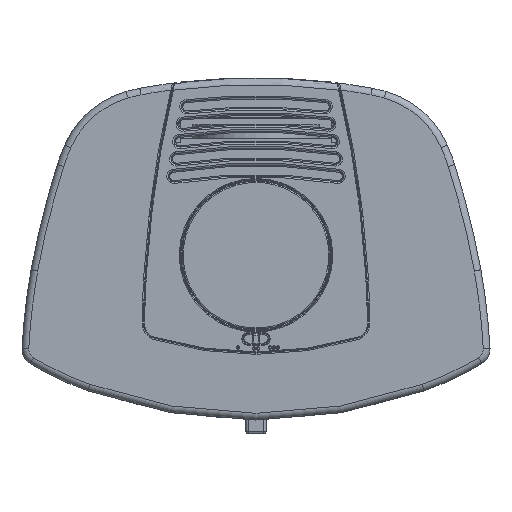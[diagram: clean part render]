
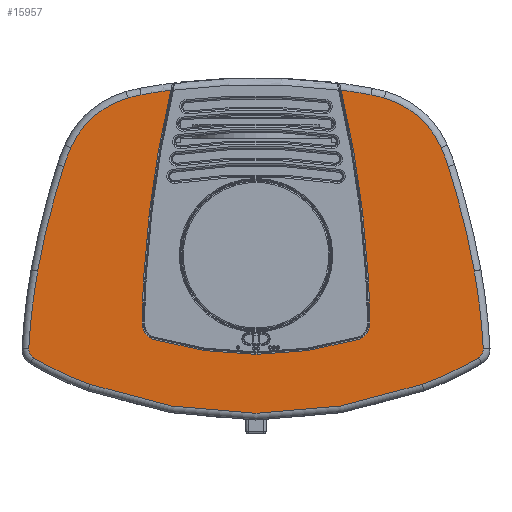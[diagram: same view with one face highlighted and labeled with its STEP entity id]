
A CAD part, top view. The second image highlights one B-rep face of the part: STEP entity #15957.
In plain terms, the highlighted planar face has unit normal (0, 0, 1).
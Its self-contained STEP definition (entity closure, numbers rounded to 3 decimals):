
#1618=CIRCLE('',#18541,745.);
#1621=CIRCLE('',#18546,175.);
#1630=CIRCLE('',#18558,975.);
#1657=CIRCLE('',#18599,1303.);
#1661=CIRCLE('',#18604,975.);
#1664=CIRCLE('',#18608,745.);
#1666=CIRCLE('',#18612,235.);
#1671=CIRCLE('',#18618,12.);
#1672=CIRCLE('',#18620,105.);
#1676=CIRCLE('',#18625,385.);
#1679=CIRCLE('',#18629,585.);
#1682=CIRCLE('',#18633,385.);
#1684=CIRCLE('',#18636,175.);
#1688=CIRCLE('',#18641,12.);
#1689=CIRCLE('',#18643,105.);
#1693=CIRCLE('',#18648,745.);
#1694=CIRCLE('',#18650,235.);
#1696=CIRCLE('',#18661,745.);
#1697=CIRCLE('',#18662,1303.);
#1698=CIRCLE('',#18663,1103.);
#1699=CIRCLE('',#18664,19.);
#1700=CIRCLE('',#18665,428.);
#1701=CIRCLE('',#18666,19.);
#1702=CIRCLE('',#18667,1103.);
#8108=ORIENTED_EDGE('',*,*,#10825,.F.);
#8109=ORIENTED_EDGE('',*,*,#10767,.T.);
#8110=ORIENTED_EDGE('',*,*,#10773,.T.);
#8111=ORIENTED_EDGE('',*,*,#10842,.T.);
#8112=ORIENTED_EDGE('',*,*,#10836,.T.);
#8113=ORIENTED_EDGE('',*,*,#10830,.T.);
#8114=ORIENTED_EDGE('',*,*,#10833,.T.);
#8115=ORIENTED_EDGE('',*,*,#10841,.T.);
#8116=ORIENTED_EDGE('',*,*,#10846,.T.);
#8117=ORIENTED_EDGE('',*,*,#10849,.T.);
#8118=ORIENTED_EDGE('',*,*,#10852,.T.);
#8119=ORIENTED_EDGE('',*,*,#10858,.T.);
#8120=ORIENTED_EDGE('',*,*,#10863,.T.);
#8121=ORIENTED_EDGE('',*,*,#10785,.T.);
#8122=ORIENTED_EDGE('',*,*,#10864,.T.);
#8123=ORIENTED_EDGE('',*,*,#10859,.T.);
#8124=ORIENTED_EDGE('',*,*,#10854,.T.);
#8125=ORIENTED_EDGE('',*,*,#10874,.T.);
#8126=ORIENTED_EDGE('',*,*,#10875,.F.);
#8127=ORIENTED_EDGE('',*,*,#10876,.F.);
#8128=ORIENTED_EDGE('',*,*,#10877,.F.);
#8129=ORIENTED_EDGE('',*,*,#10878,.F.);
#8130=ORIENTED_EDGE('',*,*,#10879,.F.);
#8131=ORIENTED_EDGE('',*,*,#10880,.F.);
#10767=EDGE_CURVE('',#12392,#12391,#1618,.T.);
#10773=EDGE_CURVE('',#12391,#12396,#1621,.T.);
#10785=EDGE_CURVE('',#12403,#12406,#1630,.T.);
#10825=EDGE_CURVE('',#12392,#12431,#1657,.T.);
#10830=EDGE_CURVE('',#12433,#12435,#1661,.T.);
#10833=EDGE_CURVE('',#12435,#12437,#1664,.T.);
#10836=EDGE_CURVE('',#12439,#12433,#1666,.T.);
#10841=EDGE_CURVE('',#12437,#12442,#1671,.T.);
#10842=EDGE_CURVE('',#12396,#12439,#1672,.T.);
#10846=EDGE_CURVE('',#12442,#12444,#1676,.T.);
#10849=EDGE_CURVE('',#12444,#12446,#1679,.T.);
#10852=EDGE_CURVE('',#12446,#12448,#1682,.T.);
#10854=EDGE_CURVE('',#12450,#12449,#1684,.T.);
#10858=EDGE_CURVE('',#12448,#12452,#1688,.T.);
#10859=EDGE_CURVE('',#12453,#12450,#1689,.T.);
#10863=EDGE_CURVE('',#12452,#12403,#1693,.T.);
#10864=EDGE_CURVE('',#12406,#12453,#1694,.T.);
#10874=EDGE_CURVE('',#12449,#12455,#1696,.T.);
#10875=EDGE_CURVE('',#12456,#12455,#1697,.T.);
#10876=EDGE_CURVE('',#12457,#12456,#1698,.T.);
#10877=EDGE_CURVE('',#12458,#12457,#1699,.T.);
#10878=EDGE_CURVE('',#12459,#12458,#1700,.T.);
#10879=EDGE_CURVE('',#12460,#12459,#1701,.T.);
#10880=EDGE_CURVE('',#12431,#12460,#1702,.T.);
#12391=VERTEX_POINT('',#40052);
#12392=VERTEX_POINT('',#40054);
#12396=VERTEX_POINT('',#40069);
#12403=VERTEX_POINT('',#40089);
#12406=VERTEX_POINT('',#40094);
#12431=VERTEX_POINT('',#40174);
#12433=VERTEX_POINT('',#40179);
#12435=VERTEX_POINT('',#40183);
#12437=VERTEX_POINT('',#40189);
#12439=VERTEX_POINT('',#40197);
#12442=VERTEX_POINT('',#40205);
#12444=VERTEX_POINT('',#40214);
#12446=VERTEX_POINT('',#40220);
#12448=VERTEX_POINT('',#40226);
#12449=VERTEX_POINT('',#40230);
#12450=VERTEX_POINT('',#40232);
#12452=VERTEX_POINT('',#40238);
#12453=VERTEX_POINT('',#40242);
#12455=VERTEX_POINT('',#40270);
#12456=VERTEX_POINT('',#40272);
#12457=VERTEX_POINT('',#40274);
#12458=VERTEX_POINT('',#40276);
#12459=VERTEX_POINT('',#40278);
#12460=VERTEX_POINT('',#40280);
#13548=EDGE_LOOP('',(#8108,#8109,#8110,#8111,#8112,#8113,#8114,#8115,#8116,
#8117,#8118,#8119,#8120,#8121,#8122,#8123,#8124,#8125,#8126,#8127,#8128,
#8129,#8130,#8131));
#14634=FACE_BOUND('',#13548,.T.);
#15104=PLANE('',#18660);
#15957=ADVANCED_FACE('',(#14634),#15104,.T.);
#18541=AXIS2_PLACEMENT_3D('',#40053,#22008,#22009);
#18546=AXIS2_PLACEMENT_3D('',#40070,#22020,#22021);
#18558=AXIS2_PLACEMENT_3D('',#40095,#22047,#22048);
#18599=AXIS2_PLACEMENT_3D('',#40173,#22142,#22143);
#18604=AXIS2_PLACEMENT_3D('',#40184,#22153,#22154);
#18608=AXIS2_PLACEMENT_3D('',#40190,#22161,#22162);
#18612=AXIS2_PLACEMENT_3D('',#40196,#22170,#22171);
#18618=AXIS2_PLACEMENT_3D('',#40206,#22182,#22183);
#18620=AXIS2_PLACEMENT_3D('',#40208,#22186,#22187);
#18625=AXIS2_PLACEMENT_3D('',#40215,#22196,#22197);
#18629=AXIS2_PLACEMENT_3D('',#40221,#22204,#22205);
#18633=AXIS2_PLACEMENT_3D('',#40227,#22212,#22213);
#18636=AXIS2_PLACEMENT_3D('',#40231,#22218,#22219);
#18641=AXIS2_PLACEMENT_3D('',#40239,#22228,#22229);
#18643=AXIS2_PLACEMENT_3D('',#40241,#22232,#22233);
#18648=AXIS2_PLACEMENT_3D('',#40248,#22242,#22243);
#18650=AXIS2_PLACEMENT_3D('',#40250,#22246,#22247);
#18660=AXIS2_PLACEMENT_3D('',#40268,#22274,#22275);
#18661=AXIS2_PLACEMENT_3D('',#40269,#22276,#22277);
#18662=AXIS2_PLACEMENT_3D('',#40271,#22278,#22279);
#18663=AXIS2_PLACEMENT_3D('',#40273,#22280,#22281);
#18664=AXIS2_PLACEMENT_3D('',#40275,#22282,#22283);
#18665=AXIS2_PLACEMENT_3D('',#40277,#22284,#22285);
#18666=AXIS2_PLACEMENT_3D('',#40279,#22286,#22287);
#18667=AXIS2_PLACEMENT_3D('',#40281,#22288,#22289);
#22008=DIRECTION('',(0.,0.,1.));
#22009=DIRECTION('',(1.,0.,0.));
#22020=DIRECTION('',(0.,0.,1.));
#22021=DIRECTION('',(1.,0.,0.));
#22047=DIRECTION('',(0.,0.,1.));
#22048=DIRECTION('',(1.,0.,0.));
#22142=DIRECTION('',(0.,0.,1.));
#22143=DIRECTION('',(1.,0.,0.));
#22153=DIRECTION('',(0.,0.,1.));
#22154=DIRECTION('',(1.,0.,0.));
#22161=DIRECTION('',(0.,0.,1.));
#22162=DIRECTION('',(1.,0.,0.));
#22170=DIRECTION('',(0.,0.,1.));
#22171=DIRECTION('',(1.,0.,0.));
#22182=DIRECTION('',(0.,0.,1.));
#22183=DIRECTION('',(1.,0.,0.));
#22186=DIRECTION('',(0.,0.,1.));
#22187=DIRECTION('',(1.,0.,0.));
#22196=DIRECTION('',(0.,0.,1.));
#22197=DIRECTION('',(1.,0.,0.));
#22204=DIRECTION('',(0.,0.,1.));
#22205=DIRECTION('',(1.,0.,0.));
#22212=DIRECTION('',(0.,0.,1.));
#22213=DIRECTION('',(1.,0.,0.));
#22218=DIRECTION('',(0.,0.,1.));
#22219=DIRECTION('',(1.,0.,0.));
#22228=DIRECTION('',(0.,0.,1.));
#22229=DIRECTION('',(1.,0.,0.));
#22232=DIRECTION('',(0.,0.,1.));
#22233=DIRECTION('',(1.,0.,0.));
#22242=DIRECTION('',(0.,0.,1.));
#22243=DIRECTION('',(1.,0.,0.));
#22246=DIRECTION('',(0.,0.,1.));
#22247=DIRECTION('',(1.,0.,0.));
#22274=DIRECTION('',(0.,0.,1.));
#22275=DIRECTION('',(1.,0.,0.));
#22276=DIRECTION('',(0.,0.,1.));
#22277=DIRECTION('',(1.,0.,0.));
#22278=DIRECTION('',(0.,0.,1.));
#22279=DIRECTION('',(1.,0.,0.));
#22280=DIRECTION('',(0.,0.,1.));
#22281=DIRECTION('',(1.,0.,0.));
#22282=DIRECTION('',(0.,0.,1.));
#22283=DIRECTION('',(-1.,0.,0.));
#22284=DIRECTION('',(0.,0.,1.));
#22285=DIRECTION('',(1.,0.,0.));
#22286=DIRECTION('',(0.,0.,1.));
#22287=DIRECTION('',(1.,0.,0.));
#22288=DIRECTION('',(0.,0.,1.));
#22289=DIRECTION('',(1.,0.,0.));
#40052=CARTESIAN_POINT('',(-136.726,201.624,40.));
#40053=CARTESIAN_POINT('',(0.,-530.722,40.));
#40054=CARTESIAN_POINT('',(-101.227,207.369,40.));
#40069=CARTESIAN_POINT('',(-152.517,197.911,40.));
#40070=CARTESIAN_POINT('',(-104.609,29.596,40.));
#40089=CARTESIAN_POINT('',(259.342,-7.583,40.));
#40094=CARTESIAN_POINT('',(228.426,116.586,40.));
#40095=CARTESIAN_POINT('',(-700.193,-180.553,40.));
#40173=CARTESIAN_POINT('',(1167.4,-89.943,40.));
#40174=CARTESIAN_POINT('',(-133.187,-10.674,40.));
#40179=CARTESIAN_POINT('',(-228.426,116.586,40.));
#40183=CARTESIAN_POINT('',(-259.342,-7.583,40.));
#40184=CARTESIAN_POINT('',(700.193,-180.553,40.));
#40189=CARTESIAN_POINT('',(-270.095,-99.949,40.));
#40190=CARTESIAN_POINT('',(473.841,-139.75,40.));
#40196=CARTESIAN_POINT('',(-4.605,44.968,40.));
#40197=CARTESIAN_POINT('',(-220.022,138.886,40.));
#40205=CARTESIAN_POINT('',(-264.244,-110.905,40.));
#40206=CARTESIAN_POINT('',(-258.112,-100.59,40.));
#40208=CARTESIAN_POINT('',(-123.772,96.922,40.));
#40214=CARTESIAN_POINT('',(-197.461,-142.372,40.));
#40215=CARTESIAN_POINT('',(-67.508,220.033,40.));
#40220=CARTESIAN_POINT('',(197.461,-142.372,40.));
#40221=CARTESIAN_POINT('',(0.,408.295,40.));
#40226=CARTESIAN_POINT('',(264.244,-110.905,40.));
#40227=CARTESIAN_POINT('',(67.508,220.033,40.));
#40230=CARTESIAN_POINT('',(136.726,201.624,40.));
#40231=CARTESIAN_POINT('',(104.609,29.596,40.));
#40232=CARTESIAN_POINT('',(152.517,197.911,40.));
#40238=CARTESIAN_POINT('',(270.095,-99.949,40.));
#40239=CARTESIAN_POINT('',(258.112,-100.59,40.));
#40241=CARTESIAN_POINT('',(123.772,96.922,40.));
#40242=CARTESIAN_POINT('',(220.022,138.886,40.));
#40248=CARTESIAN_POINT('',(-473.841,-139.75,40.));
#40250=CARTESIAN_POINT('',(4.605,44.968,40.));
#40268=CARTESIAN_POINT('',(0.,408.295,40.));
#40269=CARTESIAN_POINT('',(0.,-530.722,40.));
#40270=CARTESIAN_POINT('',(101.227,207.369,40.));
#40271=CARTESIAN_POINT('',(-1167.4,-89.943,40.));
#40272=CARTESIAN_POINT('',(133.187,-10.674,40.));
#40273=CARTESIAN_POINT('',(-967.77,-77.776,40.));
#40274=CARTESIAN_POINT('',(135.207,-70.695,40.));
#40275=CARTESIAN_POINT('',(116.207,-70.817,40.));
#40276=CARTESIAN_POINT('',(121.606,-89.034,40.));
#40277=CARTESIAN_POINT('',(0.,321.327,40.));
#40278=CARTESIAN_POINT('',(-121.606,-89.034,40.));
#40279=CARTESIAN_POINT('',(-116.207,-70.817,40.));
#40280=CARTESIAN_POINT('',(-135.207,-70.695,40.));
#40281=CARTESIAN_POINT('',(967.77,-77.776,40.));
